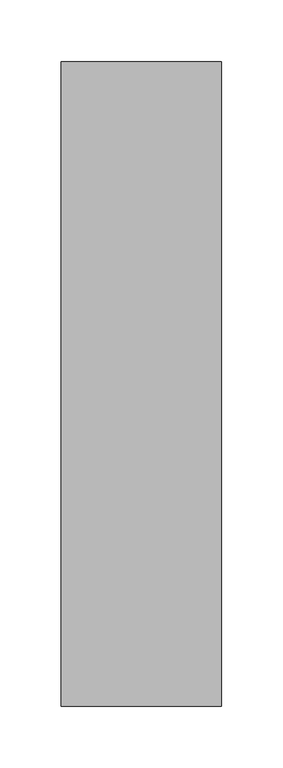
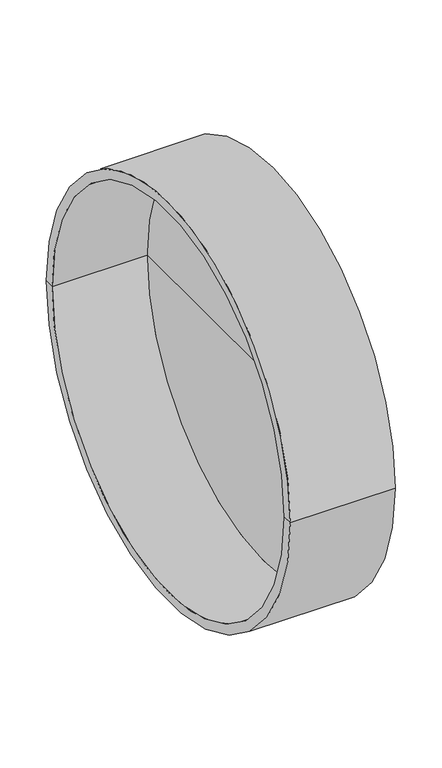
"""IFC4 building model written with IfcOpenShell, lengths in millimetres: pipe fitting geometry, pf_KGK_vicko : pf_KGK_vicko."""

from ifc_helpers import new_model, si_unit, frame, origin, place, context, project, spatial, polyline, circle_curve, source, transform, mapped, element, save
from ifc_brep_helpers import plane_surface, cylinder_surface, revolved_surface, advanced_brep


def pipe_fitting_8c685066(model_context):
    return source(origin(), model_context, "Body", "AdvancedBrep", [
        advanced_brep(
        [(-118.0, -262.3, 0.0), (-118.0, 262.3, 0.0), (12.3, 262.3, 0.0), (12.3, -262.3, 0.0), (-118.0, -250.0, 0.0), (-118.0, 250.0, 0.0), (0.0, -250.0, 0.0), (0.0, 250.0, 0.0), (0.0, 0.0, 0.0), (12.3, 0.0, 0.0)],
        [
            (0, 1, circle_curve(frame((-118.0, 0.0, 0.0), z_axis=(1.0, 0.0, 0.0), x_axis=(0.0, 1.0, 0.0)), 262.3)),
            (1, 2),
            (2, 3, circle_curve(frame((12.3, 0.0, 0.0), z_axis=(-1.0, 0.0, 0.0), x_axis=(0.0, 1.0, 0.0)), 262.3)),
            (3, 0),
            (1, 0, circle_curve(frame((-118.0, 0.0, 0.0), z_axis=(1.0, 0.0, 0.0), x_axis=(0.0, 1.0, 0.0)), 262.3)),
            (3, 2, circle_curve(frame((12.3, 0.0, 0.0), z_axis=(-1.0, 0.0, 0.0), x_axis=(0.0, 1.0, 0.0)), 262.3)),
            (4, 5, circle_curve(frame((-118.0, 0.0, 0.0), z_axis=(1.0, 0.0, 0.0), x_axis=(0.0, 1.0, 0.0)), 250.0)),
            (5, 1),
            (0, 4),
            (5, 4, circle_curve(frame((-118.0, 0.0, 0.0), z_axis=(1.0, 0.0, 0.0), x_axis=(0.0, 1.0, 0.0)), 250.0)),
            (6, 7, circle_curve(frame((0.0, 0.0, 0.0), z_axis=(1.0, 0.0, 0.0), x_axis=(0.0, 1.0, 0.0)), 250.0)),
            (7, 5),
            (4, 6),
            (7, 6, circle_curve(frame((0.0, 0.0, 0.0), z_axis=(1.0, 0.0, 0.0), x_axis=(0.0, 1.0, 0.0)), 250.0)),
            (8, 7),
            (6, 8),
            (2, 9),
            (9, 3),
        ],
        [
            cylinder_surface(frame((-109.0241529, 0.0, 0.0), z_axis=(-1.0, 0.0, 0.0), x_axis=(0.0, 1.0, 0.0)), 262.3),
            plane_surface(frame((-118.0, 0.0, 0.0), z_axis=(-1.0, 0.0, 0.0), x_axis=(0.0, 1.0, 0.0))),
            revolved_surface(polyline([(-118.0, 250.0, 0.0), (0.0, 250.0, 0.0)]), (-109.0241529, 0.0, 0.0), (-1.0, 0.0, 0.0)),
            plane_surface(frame((0.0, 0.0, 0.0), z_axis=(-1.0, 0.0, 0.0), x_axis=(0.0, 1.0, 0.0))),
            plane_surface(frame((12.3, 0.0, 0.0), z_axis=(1.0, 0.0, 0.0), x_axis=(0.0, 1.0, 0.0))),
        ],
        [
            (0, [[1, 2, 3, 4]]),
            (0, [[5, -4, 6, -2]]),
            (1, [[7, 8, -1, 9]]),
            (1, [[10, -9, -5, -8]]),
            (2, [[11, 12, -7, 13]]),
            (2, [[14, -13, -10, -12]]),
            (3, [[15, -11, 16]]),
            (3, [[-16, -14, -15]]),
            (4, [[-3, 17, 18]]),
            (4, [[-6, -18, -17]]),
        ],
    ),
    ])


if __name__ == "__main__":
    model = new_model("IFC4")
    model_context = context("Model", 3, world=origin())
    ifc_project = project(units=[si_unit("LENGTHUNIT", "METRE", prefix="MILLI")], contexts=[model_context])
    site = spatial("IfcSite", under=ifc_project)
    building = spatial("IfcBuilding", under=site)
    placement = place(None, origin())
    pipe_fitting_shape = pipe_fitting_8c685066(model_context)
    element("IfcPipeFitting", 1, ObjectType="pf_KGK_vicko : pf_KGK_vicko", at=placement, inside=building, context=model_context, shape_type="MappedRepresentation", body=[
        mapped(pipe_fitting_shape, transform((0.0, 0.0, 0.0), x_axis=(1.0, 0.0, 0.0), y_axis=(0.0, 1.0, 0.0), z_axis=(0.0, 0.0, 1.0))),
    ])
    save(model, "model.ifc")
